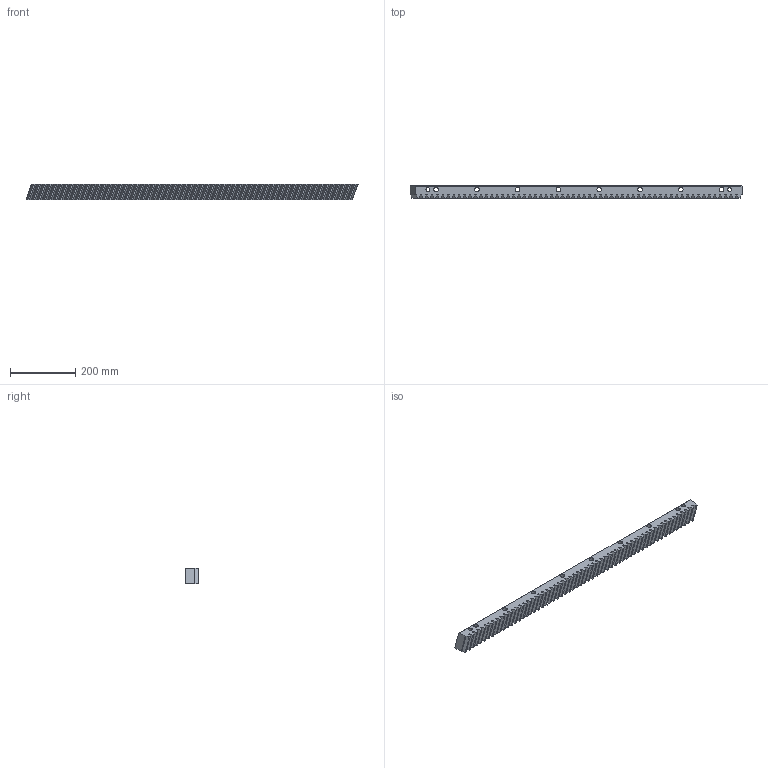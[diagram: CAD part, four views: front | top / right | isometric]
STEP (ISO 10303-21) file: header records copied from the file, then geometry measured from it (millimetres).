
FILE_DESCRIPTION(/* description */ (''),/* implementation_level */ '2;1');
FILE_NAME(/* name */ 'BL-1HR26R050100H.ipt',/* time_stamp */ '2019-06-18T08:37:35+02:00',/* author */ ('VĂ©gh MĂˇtĂ©'),/* organization */ ('Bearing Kft'),/* preprocessor_version */ 'ST-DEVELOPER v16.7',/* originating_system */ 'DEX',/* authorisation */ $);
FILE_SCHEMA (('AUTOMOTIVE_DESIGN {1 0 10303 214 3 1 1}'));
Length unit declared in the file: millimetre
Products named in the file (1): BL-1HR26R050100H.ipt
Bounding box: 1017.38 x 39 x 49 mm (x, y, z)
Volume: 1558341.1 mm3; surface area: 235377.2 mm2
Topology: 1 solids, 1 shells, 734 faces, 2001 edges, 1334 vertices
Faces by surface type: plane 515, bspline 199, cylinder 20
Full cylindrical faces by diameter (mm): 11.7 x2, 14 x8, 20 x8
Entity records: 33565 total; most frequent: CARTESIAN_POINT 10493, ORIENTED_EDGE 3946, DIRECTION 3167, EDGE_CURVE 1973, LINE 1535, VECTOR 1535, VERTEX_POINT 1334, EDGE_LOOP 847
